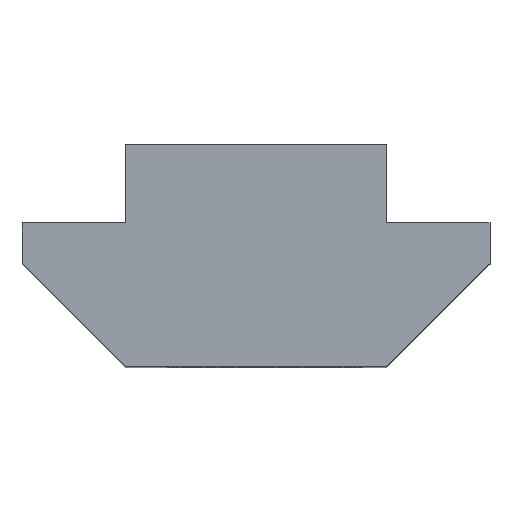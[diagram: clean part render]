
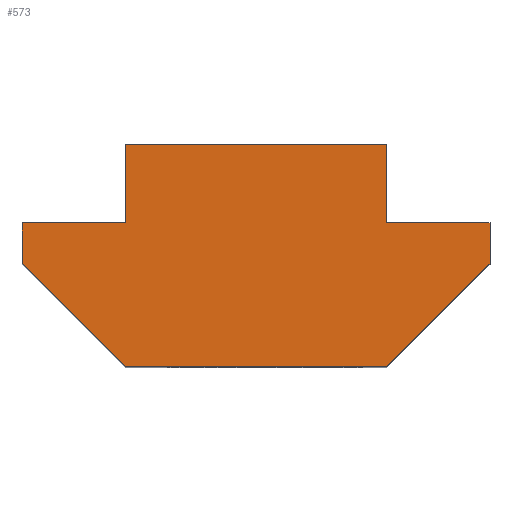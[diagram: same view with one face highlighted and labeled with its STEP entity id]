
A CAD part, top view. The second image highlights one B-rep face of the part: STEP entity #573.
In plain terms, the highlighted planar face has unit normal (0, 0, 1).
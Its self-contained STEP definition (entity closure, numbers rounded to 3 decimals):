
#27=PLANE('',#620);
#59=FACE_OUTER_BOUND('',#91,.T.);
#91=EDGE_LOOP('',(#509,#510,#511,#512,#513,#514,#515,#516,#517,#518));
#149=LINE('',#2044,#193);
#152=LINE('',#2051,#196);
#156=LINE('',#2058,#200);
#159=LINE('',#2064,#203);
#162=LINE('',#2070,#206);
#165=LINE('',#2076,#209);
#168=LINE('',#2082,#212);
#171=LINE('',#2088,#215);
#174=LINE('',#2094,#218);
#176=LINE('',#2097,#220);
#193=VECTOR('',#682,1000.);
#196=VECTOR('',#689,1000.);
#200=VECTOR('',#695,1000.);
#203=VECTOR('',#700,1000.);
#206=VECTOR('',#705,1000.);
#209=VECTOR('',#710,1000.);
#212=VECTOR('',#715,1000.);
#215=VECTOR('',#720,1000.);
#218=VECTOR('',#725,1000.);
#220=VECTOR('',#729,1000.);
#259=VERTEX_POINT('',#2041);
#260=VERTEX_POINT('',#2043);
#262=VERTEX_POINT('',#2050);
#264=VERTEX_POINT('',#2056);
#266=VERTEX_POINT('',#2062);
#268=VERTEX_POINT('',#2068);
#270=VERTEX_POINT('',#2074);
#272=VERTEX_POINT('',#2080);
#274=VERTEX_POINT('',#2086);
#276=VERTEX_POINT('',#2092);
#333=EDGE_CURVE('',#260,#259,#149,.T.);
#336=EDGE_CURVE('',#262,#260,#152,.T.);
#340=EDGE_CURVE('',#259,#264,#156,.T.);
#343=EDGE_CURVE('',#264,#266,#159,.T.);
#346=EDGE_CURVE('',#266,#268,#162,.T.);
#349=EDGE_CURVE('',#268,#270,#165,.T.);
#352=EDGE_CURVE('',#270,#272,#168,.T.);
#355=EDGE_CURVE('',#272,#274,#171,.T.);
#358=EDGE_CURVE('',#274,#276,#174,.T.);
#360=EDGE_CURVE('',#276,#262,#176,.T.);
#509=ORIENTED_EDGE('',*,*,#336,.T.);
#510=ORIENTED_EDGE('',*,*,#333,.T.);
#511=ORIENTED_EDGE('',*,*,#340,.T.);
#512=ORIENTED_EDGE('',*,*,#343,.T.);
#513=ORIENTED_EDGE('',*,*,#346,.T.);
#514=ORIENTED_EDGE('',*,*,#349,.T.);
#515=ORIENTED_EDGE('',*,*,#352,.T.);
#516=ORIENTED_EDGE('',*,*,#355,.T.);
#517=ORIENTED_EDGE('',*,*,#358,.T.);
#518=ORIENTED_EDGE('',*,*,#360,.T.);
#573=ADVANCED_FACE('',(#59),#27,.T.);
#620=AXIS2_PLACEMENT_3D('',#2098,#730,#731);
#682=DIRECTION('',(1.,0.,0.));
#689=DIRECTION('',(0.707,-0.707,0.));
#695=DIRECTION('',(0.707,0.707,0.));
#700=DIRECTION('',(0.,1.,0.));
#705=DIRECTION('',(-1.,0.,0.));
#710=DIRECTION('',(0.,1.,0.));
#715=DIRECTION('',(-1.,0.,0.));
#720=DIRECTION('',(0.,-1.,0.));
#725=DIRECTION('',(-1.,0.,0.));
#729=DIRECTION('',(0.,-1.,0.));
#730=DIRECTION('center_axis',(0.,0.,1.));
#731=DIRECTION('ref_axis',(1.,0.,0.));
#2041=CARTESIAN_POINT('',(5.,0.,9.));
#2043=CARTESIAN_POINT('',(-5.,0.,9.));
#2044=CARTESIAN_POINT('',(-5.,0.,9.));
#2050=CARTESIAN_POINT('',(-8.95,3.95,9.));
#2051=CARTESIAN_POINT('',(-8.95,3.95,9.));
#2056=CARTESIAN_POINT('',(8.95,3.95,9.));
#2058=CARTESIAN_POINT('',(5.,0.,9.));
#2062=CARTESIAN_POINT('',(8.95,5.5,9.));
#2064=CARTESIAN_POINT('',(8.95,3.95,9.));
#2068=CARTESIAN_POINT('',(5.,5.5,9.));
#2070=CARTESIAN_POINT('',(8.95,5.5,9.));
#2074=CARTESIAN_POINT('',(5.,8.5,9.));
#2076=CARTESIAN_POINT('',(5.,5.5,9.));
#2080=CARTESIAN_POINT('',(-5.,8.5,9.));
#2082=CARTESIAN_POINT('',(5.,8.5,9.));
#2086=CARTESIAN_POINT('',(-5.,5.5,9.));
#2088=CARTESIAN_POINT('',(-5.,8.5,9.));
#2092=CARTESIAN_POINT('',(-8.95,5.5,9.));
#2094=CARTESIAN_POINT('',(-5.,5.5,9.));
#2097=CARTESIAN_POINT('',(-8.95,5.5,9.));
#2098=CARTESIAN_POINT('Origin',(0.,0.,9.));
